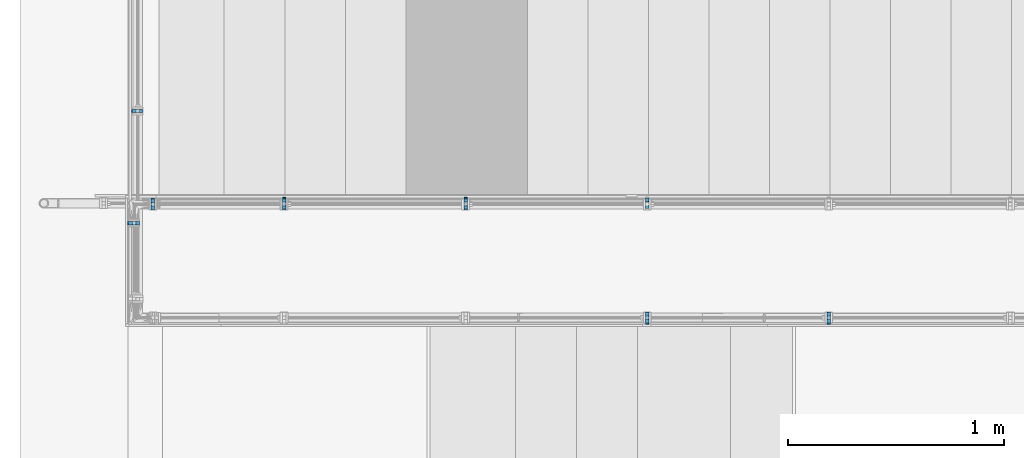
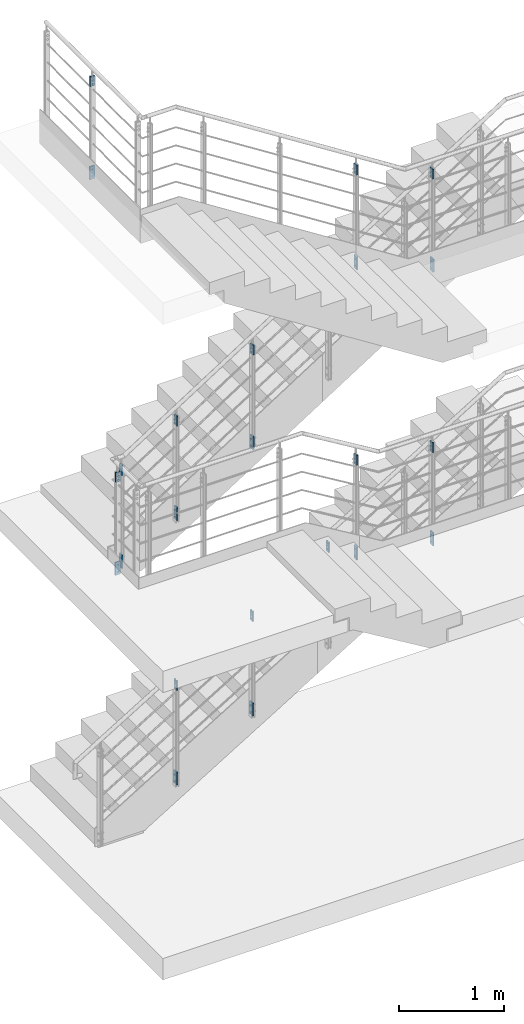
# One storey, part 18 of 98: 23 plates, 58 openings.
"""IFC2X3 building model written with IfcOpenShell, lengths in millimetres."""

from ifc_helpers import new_model, entity, si_unit, converted_unit, frame, frame_2d, origin, origin_with_axes, place, context, project, spatial, polyline, circle, outline, extrude, material, layer, layer_set, element, save


model = new_model("IFC2X3")

# Units and contexts
model_context = context("Model", 3, precision=1e-09, world=origin_with_axes())
ifc_project = project(units=[si_unit("LENGTHUNIT", "METRE", prefix="MILLI"), si_unit("AREAUNIT", "SQUARE_METRE"), si_unit("VOLUMEUNIT", "CUBIC_METRE"), converted_unit("PLANEANGLEUNIT", "DEGREE", entity("IfcPlaneAngleMeasure", 0.01745329), si_unit("PLANEANGLEUNIT", "RADIAN"), dimensions=[0, 0, 0, 0, 0, 0, 0])], contexts=[model_context])

# Site, building, storey
site_placement = place(None, origin_with_axes())
site = spatial("IfcSite", under=ifc_project, at=site_placement, Name="Maybachstra?e 2, 71563 Affalterbach", CompositionType="ELEMENT")
building_placement = place(site_placement, origin_with_axes())
building = spatial("IfcBuilding", under=site, at=building_placement, Name="Struktur 1", CompositionType="ELEMENT")
storey_placement = place(building_placement, origin_with_axes())
storey = spatial("IfcBuildingStorey", under=building, at=storey_placement, Name="Default Storey", CompositionType="ELEMENT", Elevation=0.0)

# Plate, openings
ifc_material_1 = material(Name="S235JR")
ifc_layer_1 = layer(ifc_material_1, 16.0)
ifc_layer_set_1 = layer_set([ifc_layer_1], Name="S235JR")
plate_1_placement = place(None, frame((10527.029157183, -572.5, 5947.5), z_axis=(1.0, 0.0, 0.0), x_axis=(0.0, 1.0, 0.0)))
plate_1 = element("IfcPlate", 1, at=plate_1_placement, inside=storey, material=ifc_layer_set_1, Name="-", ObjectType="-", context=model_context, shape_type="SweptSolid", body=[
    extrude(outline(polyline([(-27.5, -75.0), (27.5, -75.0), (27.5, 75.0), (-27.5, 75.0), (-27.5, -75.0)])), origin_with_axes(), (0.0, 0.0, 1.0), 16.0),
])
opening_1_placement = place(plate_1_placement, frame((2.5, 0.0, -0.5), z_axis=(0.0, 0.0, 1.0), x_axis=(1.0, 0.0, 0.0)))
element("IfcOpeningElement", 2, at=opening_1_placement, cuts=plate_1, ObjectType="Opening", context=model_context, shape_type="SweptSolid", body=[
    extrude(circle(Radius=7.001, at=frame_2d((0.0, 40.0), x_axis=(1.0, 0.0))), origin(), (0.0, 0.0, 1.0), 17.0),
])
opening_2_placement = place(plate_1_placement, frame((2.5, 0.0, -0.5), z_axis=(0.0, 0.0, 1.0), x_axis=(1.0, 0.0, 0.0)))
element("IfcOpeningElement", 3, at=opening_2_placement, cuts=plate_1, ObjectType="Opening", context=model_context, shape_type="SweptSolid", body=[
    extrude(circle(Radius=7.001, at=frame_2d((0.0, -40.0), x_axis=(1.0, 0.0))), origin(), (0.0, 0.0, 1.0), 17.0),
])

plate_2_placement = place(None, frame((10527.029157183, -571.5, 2755.0), z_axis=(1.0, 0.0, 0.0), x_axis=(0.0, 1.0, 0.0)))
plate_2 = element("IfcPlate", 4, at=plate_2_placement, inside=storey, material=ifc_layer_set_1, Name="-", ObjectType="-", context=model_context, shape_type="SweptSolid", body=[
    extrude(outline(polyline([(-27.5, -75.0), (27.5, -75.0), (27.5, 75.0), (-27.5, 75.0), (-27.5, -75.0)])), origin_with_axes(), (0.0, 0.0, 1.0), 16.0),
])
opening_3_placement = place(plate_2_placement, frame((2.5, 0.0, -0.5), z_axis=(0.0, 0.0, 1.0), x_axis=(1.0, 0.0, 0.0)))
element("IfcOpeningElement", 5, at=opening_3_placement, cuts=plate_2, ObjectType="Opening", context=model_context, shape_type="SweptSolid", body=[
    extrude(circle(Radius=7.001, at=frame_2d((0.0, 40.0), x_axis=(1.0, 0.0))), origin(), (0.0, 0.0, 1.0), 17.0),
])
opening_4_placement = place(plate_2_placement, frame((2.5, 0.0, -0.5), z_axis=(0.0, 0.0, 1.0), x_axis=(1.0, 0.0, 0.0)))
element("IfcOpeningElement", 6, at=opening_4_placement, cuts=plate_2, ObjectType="Opening", context=model_context, shape_type="SweptSolid", body=[
    extrude(circle(Radius=7.001, at=frame_2d((0.0, -40.0), x_axis=(1.0, 0.0))), origin(), (0.0, 0.0, 1.0), 17.0),
])

ifc_material_2 = material(Name="1.4301")
ifc_layer_2 = layer(ifc_material_2, 16.0)
ifc_layer_set_2 = layer_set([ifc_layer_2], Name="1.4301")
plate_3_placement = place(None, frame((10527.029157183, -569.0, 3820.1), z_axis=(1.0, 0.0, 0.0), x_axis=(0.0, 1.0, 0.0)))
plate_3 = element("IfcPlate", 7, at=plate_3_placement, inside=storey, material=ifc_layer_set_2, Name="-", ObjectType="-", context=model_context, shape_type="SweptSolid", body=[
    extrude(outline(polyline([(-25.0, -57.5), (25.0, -57.5), (25.0, 57.5), (-25.0, 57.5), (-25.0, -57.5)])), origin_with_axes(), (0.0, 0.0, 1.0), 16.0),
])
opening_5_placement = place(plate_3_placement, frame((0.0, 0.0, -0.1), z_axis=(0.0, 0.0, 1.0), x_axis=(1.0, 0.0, 0.0)))
element("IfcOpeningElement", 8, at=opening_5_placement, cuts=plate_3, ObjectType="Opening", context=model_context, shape_type="SweptSolid", body=[
    extrude(outline(polyline([(-8.251, 32.499), (8.251, 32.499), (8.251, 73.92554386), (-8.251, 73.92554386), (-8.251, 32.499)])), origin(), (0.0, 0.0, 1.0), 16.2),
])
opening_6_placement = place(plate_3_placement, frame((0.0, -9.5, -0.5), z_axis=(0.0, 0.0, 1.0), x_axis=(1.0, 0.0, 0.0)))
element("IfcOpeningElement", 9, at=opening_6_placement, cuts=plate_3, ObjectType="Opening", context=model_context, shape_type="SweptSolid", body=[
    extrude(circle(Radius=6.501, at=frame_2d((0.0, 22.0), x_axis=(1.0, 0.0))), origin(), (0.0, 0.0, 1.0), 17.0),
])
opening_7_placement = place(plate_3_placement, frame((0.0, -9.5, -0.5), z_axis=(0.0, 0.0, 1.0), x_axis=(1.0, 0.0, 0.0)))
element("IfcOpeningElement", 10, at=opening_7_placement, cuts=plate_3, ObjectType="Opening", context=model_context, shape_type="SweptSolid", body=[
    extrude(circle(Radius=6.501, at=frame_2d((0.0, -22.0), x_axis=(1.0, 0.0))), origin(), (0.0, 0.0, 1.0), 17.0),
])

plate_4_placement = place(None, frame((10527.029157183, -570.0, 7012.6), z_axis=(1.0, 0.0, 0.0), x_axis=(0.0, 1.0, 0.0)))
plate_4 = element("IfcPlate", 11, at=plate_4_placement, inside=storey, material=ifc_layer_set_2, Name="-", ObjectType="-", context=model_context, shape_type="SweptSolid", body=[
    extrude(outline(polyline([(-25.0, -57.5), (25.0, -57.5), (25.0, 57.5), (-25.0, 57.5), (-25.0, -57.5)])), origin_with_axes(), (0.0, 0.0, 1.0), 16.0),
])
opening_8_placement = place(plate_4_placement, frame((0.0, 0.0, -0.1), z_axis=(0.0, 0.0, 1.0), x_axis=(1.0, 0.0, 0.0)))
element("IfcOpeningElement", 12, at=opening_8_placement, cuts=plate_4, ObjectType="Opening", context=model_context, shape_type="SweptSolid", body=[
    extrude(outline(polyline([(-8.251, 32.499), (8.251, 32.499), (8.251, 73.92554386), (-8.251, 73.92554386), (-8.251, 32.499)])), origin(), (0.0, 0.0, 1.0), 16.2),
])
opening_9_placement = place(plate_4_placement, frame((0.0, -9.5, -0.5), z_axis=(0.0, 0.0, 1.0), x_axis=(1.0, 0.0, 0.0)))
element("IfcOpeningElement", 13, at=opening_9_placement, cuts=plate_4, ObjectType="Opening", context=model_context, shape_type="SweptSolid", body=[
    extrude(circle(Radius=6.501, at=frame_2d((0.0, 22.0), x_axis=(1.0, 0.0))), origin(), (0.0, 0.0, 1.0), 17.0),
])
opening_10_placement = place(plate_4_placement, frame((0.0, -9.5, -0.5), z_axis=(0.0, 0.0, 1.0), x_axis=(1.0, 0.0, 0.0)))
element("IfcOpeningElement", 14, at=opening_10_placement, cuts=plate_4, ObjectType="Opening", context=model_context, shape_type="SweptSolid", body=[
    extrude(circle(Radius=6.501, at=frame_2d((0.0, -22.0), x_axis=(1.0, 0.0))), origin(), (0.0, 0.0, 1.0), 17.0),
])

plate_5_placement = place(None, frame((9687.029157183, -569.0, 3966.838077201), z_axis=(1.0, 0.0, 0.0), x_axis=(0.0, 1.0, 0.0)))
plate_5 = element("IfcPlate", 15, at=plate_5_placement, inside=storey, material=ifc_layer_set_2, Name="-", ObjectType="-", context=model_context, shape_type="SweptSolid", body=[
    extrude(outline(polyline([(-25.0, -57.5), (25.0, -57.5), (25.0, 57.5), (-25.0, 57.5), (-25.0, -57.5)])), origin_with_axes(), (0.0, 0.0, 1.0), 16.0),
])
opening_11_placement = place(plate_5_placement, frame((0.0, 0.0, -0.1), z_axis=(0.0, 0.0, 1.0), x_axis=(1.0, 0.0, 0.0)))
element("IfcOpeningElement", 16, at=opening_11_placement, cuts=plate_5, ObjectType="Opening", context=model_context, shape_type="SweptSolid", body=[
    extrude(outline(polyline([(-8.251, 32.499), (8.251, 32.499), (8.251, 73.92554386), (-8.251, 73.92554386), (-8.251, 32.499)])), origin(), (0.0, 0.0, 1.0), 16.2),
])
opening_12_placement = place(plate_5_placement, frame((0.0, -9.5, -0.5), z_axis=(0.0, 0.0, 1.0), x_axis=(1.0, 0.0, 0.0)))
element("IfcOpeningElement", 17, at=opening_12_placement, cuts=plate_5, ObjectType="Opening", context=model_context, shape_type="SweptSolid", body=[
    extrude(circle(Radius=6.501, at=frame_2d((0.0, 22.0), x_axis=(1.0, 0.0))), origin(), (0.0, 0.0, 1.0), 17.0),
])
opening_13_placement = place(plate_5_placement, frame((0.0, -9.5, -0.5), z_axis=(0.0, 0.0, 1.0), x_axis=(1.0, 0.0, 0.0)))
element("IfcOpeningElement", 18, at=opening_13_placement, cuts=plate_5, ObjectType="Opening", context=model_context, shape_type="SweptSolid", body=[
    extrude(circle(Radius=6.501, at=frame_2d((0.0, -22.0), x_axis=(1.0, 0.0))), origin(), (0.0, 0.0, 1.0), 17.0),
])

plate_6_placement = place(None, frame((9687.029157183, -571.5, 2881.738077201), z_axis=(1.0, 0.0, 0.0), x_axis=(0.0, 1.0, 0.0)))
plate_6 = element("IfcPlate", 19, at=plate_6_placement, inside=storey, material=ifc_layer_set_1, Name="-", ObjectType="-", context=model_context, shape_type="SweptSolid", body=[
    extrude(outline(polyline([(-27.5, -75.0), (27.5, -75.0), (27.5, 75.0), (-27.5, 75.0), (-27.5, -75.0)])), origin_with_axes(), (0.0, 0.0, 1.0), 16.0),
])
opening_14_placement = place(plate_6_placement, frame((2.5, 0.0, -0.5), z_axis=(0.0, 0.0, 1.0), x_axis=(1.0, 0.0, 0.0)))
element("IfcOpeningElement", 20, at=opening_14_placement, cuts=plate_6, ObjectType="Opening", context=model_context, shape_type="SweptSolid", body=[
    extrude(circle(Radius=7.001, at=frame_2d((0.0, 40.0), x_axis=(1.0, 0.0))), origin(), (0.0, 0.0, 1.0), 17.0),
])
opening_15_placement = place(plate_6_placement, frame((2.5, 0.0, -0.5), z_axis=(0.0, 0.0, 1.0), x_axis=(1.0, 0.0, 0.0)))
element("IfcOpeningElement", 21, at=opening_15_placement, cuts=plate_6, ObjectType="Opening", context=model_context, shape_type="SweptSolid", body=[
    extrude(circle(Radius=7.001, at=frame_2d((0.0, -40.0), x_axis=(1.0, 0.0))), origin(), (0.0, 0.0, 1.0), 17.0),
])

plate_7_placement = place(None, frame((8023.029157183, -40.0, 1606.682336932), z_axis=(1.0, 0.0, 0.0), x_axis=(0.0, 1.0, 0.0)))
plate_7 = element("IfcPlate", 22, at=plate_7_placement, inside=storey, material=ifc_layer_set_2, Name="-", ObjectType="-", context=model_context, shape_type="SweptSolid", body=[
    extrude(outline(polyline([(-25.0, -57.5), (25.0, -57.5), (25.0, 57.5), (-25.0, 57.5), (-25.0, -57.5)])), origin_with_axes(), (0.0, 0.0, -1.0), 16.0),
])
opening_16_placement = place(plate_7_placement, frame((-8.251, 32.499, 0.1), z_axis=(0.0, 0.0, 1.0), x_axis=(1.0, 0.0, 0.0)))
element("IfcOpeningElement", 23, at=opening_16_placement, cuts=plate_7, ObjectType="Opening", context=model_context, shape_type="SweptSolid", body=[
    extrude(outline(polyline([(0.0, 0.0), (16.502, 0.0), (16.502, 41.42654386), (0.0, 41.42654386), (0.0, 0.0)])), origin(), (0.0, 0.0, -1.0), 16.2),
])
opening_17_placement = place(plate_7_placement, frame((-6.501, 12.5, 0.5), z_axis=(0.0, 0.0, 1.0), x_axis=(1.0, 0.0, 0.0)))
element("IfcOpeningElement", 24, at=opening_17_placement, cuts=plate_7, ObjectType="Opening", context=model_context, shape_type="SweptSolid", body=[
    extrude(circle(Radius=6.501, at=frame_2d((6.501, 0.0), x_axis=(1.0, 0.0))), origin(), (0.0, 0.0, -1.0), 17.0),
])
opening_18_placement = place(plate_7_placement, frame((-6.501, -31.5, 0.5), z_axis=(0.0, 0.0, 1.0), x_axis=(1.0, 0.0, 0.0)))
element("IfcOpeningElement", 25, at=opening_18_placement, cuts=plate_7, ObjectType="Opening", context=model_context, shape_type="SweptSolid", body=[
    extrude(circle(Radius=6.501, at=frame_2d((6.501, 0.0), x_axis=(1.0, 0.0))), origin(), (0.0, 0.0, -1.0), 17.0),
])

plate_8_placement = place(None, frame((8023.029157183, -37.5, 521.582336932), z_axis=(-1.0, 0.0, 0.0), x_axis=(0.0, -1.0, 0.0)))
plate_8 = element("IfcPlate", 26, at=plate_8_placement, inside=storey, material=ifc_layer_set_1, Name="-", ObjectType="-", context=model_context, shape_type="SweptSolid", body=[
    extrude(outline(polyline([(-27.5, -75.0), (27.5, -75.0), (27.5, 75.0), (-27.5, 75.0), (-27.5, -75.0)])), origin_with_axes(), (0.0, 0.0, 1.0), 16.0),
])
opening_19_placement = place(plate_8_placement, frame((9.501, 40.0, -0.5), z_axis=(0.0, 0.0, -1.0), x_axis=(-1.0, 0.0, 0.0)))
element("IfcOpeningElement", 27, at=opening_19_placement, cuts=plate_8, ObjectType="Opening", context=model_context, shape_type="SweptSolid", body=[
    extrude(circle(Radius=7.001, at=frame_2d((7.001, 0.0), x_axis=(1.0, 0.0))), origin(), (0.0, 0.0, -1.0), 17.0),
])
opening_20_placement = place(plate_8_placement, frame((9.501, -40.0, -0.5), z_axis=(0.0, 0.0, -1.0), x_axis=(-1.0, 0.0, 0.0)))
element("IfcOpeningElement", 28, at=opening_20_placement, cuts=plate_8, ObjectType="Opening", context=model_context, shape_type="SweptSolid", body=[
    extrude(circle(Radius=7.001, at=frame_2d((7.001, 0.0), x_axis=(1.0, 0.0))), origin(), (0.0, 0.0, -1.0), 17.0),
])

plate_9_placement = place(None, frame((9687.029157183, -570.0, 7353.934521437), z_axis=(1.0, 0.0, 0.0), x_axis=(0.0, 1.0, 0.0)))
plate_9 = element("IfcPlate", 29, at=plate_9_placement, inside=storey, material=ifc_layer_set_2, Name="-", ObjectType="-", context=model_context, shape_type="SweptSolid", body=[
    extrude(outline(polyline([(-25.0, -57.5), (25.0, -57.5), (25.0, 57.5), (-25.0, 57.5), (-25.0, -57.5)])), origin_with_axes(), (0.0, 0.0, 1.0), 16.0),
])
opening_21_placement = place(plate_9_placement, frame((0.0, 0.0, -0.1), z_axis=(0.0, 0.0, 1.0), x_axis=(1.0, 0.0, 0.0)))
element("IfcOpeningElement", 30, at=opening_21_placement, cuts=plate_9, ObjectType="Opening", context=model_context, shape_type="SweptSolid", body=[
    extrude(outline(polyline([(-8.251, 32.499), (8.251, 32.499), (8.251, 73.92554386), (-8.251, 73.92554386), (-8.251, 32.499)])), origin(), (0.0, 0.0, 1.0), 16.2),
])
opening_22_placement = place(plate_9_placement, frame((0.0, -9.5, -0.5), z_axis=(0.0, 0.0, 1.0), x_axis=(1.0, 0.0, 0.0)))
element("IfcOpeningElement", 31, at=opening_22_placement, cuts=plate_9, ObjectType="Opening", context=model_context, shape_type="SweptSolid", body=[
    extrude(circle(Radius=6.501, at=frame_2d((0.0, 22.0), x_axis=(1.0, 0.0))), origin(), (0.0, 0.0, 1.0), 17.0),
])
opening_23_placement = place(plate_9_placement, frame((0.0, -9.5, -0.5), z_axis=(0.0, 0.0, 1.0), x_axis=(1.0, 0.0, 0.0)))
element("IfcOpeningElement", 32, at=opening_23_placement, cuts=plate_9, ObjectType="Opening", context=model_context, shape_type="SweptSolid", body=[
    extrude(circle(Radius=6.501, at=frame_2d((0.0, -22.0), x_axis=(1.0, 0.0))), origin(), (0.0, 0.0, 1.0), 17.0),
])

plate_10_placement = place(None, frame((9687.029157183, -572.5, 6268.834521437), z_axis=(1.0, 0.0, 0.0), x_axis=(0.0, 1.0, 0.0)))
plate_10 = element("IfcPlate", 33, at=plate_10_placement, inside=storey, material=ifc_layer_set_1, Name="-", ObjectType="-", context=model_context, shape_type="SweptSolid", body=[
    extrude(outline(polyline([(-27.5, -75.0), (27.5, -75.0), (27.5, 75.0), (-27.5, 75.0), (-27.5, -75.0)])), origin_with_axes(), (0.0, 0.0, 1.0), 16.0),
])
opening_24_placement = place(plate_10_placement, frame((2.5, 0.0, -0.5), z_axis=(0.0, 0.0, 1.0), x_axis=(1.0, 0.0, 0.0)))
element("IfcOpeningElement", 34, at=opening_24_placement, cuts=plate_10, ObjectType="Opening", context=model_context, shape_type="SweptSolid", body=[
    extrude(circle(Radius=7.001, at=frame_2d((0.0, 40.0), x_axis=(1.0, 0.0))), origin(), (0.0, 0.0, 1.0), 17.0),
])
opening_25_placement = place(plate_10_placement, frame((2.5, 0.0, -0.5), z_axis=(0.0, 0.0, 1.0), x_axis=(1.0, 0.0, 0.0)))
element("IfcOpeningElement", 35, at=opening_25_placement, cuts=plate_10, ObjectType="Opening", context=model_context, shape_type="SweptSolid", body=[
    extrude(circle(Radius=7.001, at=frame_2d((0.0, -40.0), x_axis=(1.0, 0.0))), origin(), (0.0, 0.0, 1.0), 17.0),
])

plate_11_placement = place(None, frame((8863.029157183, -40.0, 2117.807336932), z_axis=(1.0, 0.0, 0.0), x_axis=(0.0, 1.0, 0.0)))
plate_11 = element("IfcPlate", 36, at=plate_11_placement, inside=storey, material=ifc_layer_set_2, Name="-", ObjectType="-", context=model_context, shape_type="SweptSolid", body=[
    extrude(outline(polyline([(-25.0, -57.5), (25.0, -57.5), (25.0, 57.5), (-25.0, 57.5), (-25.0, -57.5)])), origin_with_axes(), (0.0, 0.0, -1.0), 16.0),
])
opening_26_placement = place(plate_11_placement, frame((-8.251, 32.499, 0.1), z_axis=(0.0, 0.0, 1.0), x_axis=(1.0, 0.0, 0.0)))
element("IfcOpeningElement", 37, at=opening_26_placement, cuts=plate_11, ObjectType="Opening", context=model_context, shape_type="SweptSolid", body=[
    extrude(outline(polyline([(0.0, 0.0), (16.502, 0.0), (16.502, 41.42654386), (0.0, 41.42654386), (0.0, 0.0)])), origin(), (0.0, 0.0, -1.0), 16.2),
])
opening_27_placement = place(plate_11_placement, frame((-6.501, 12.5, 0.5), z_axis=(0.0, 0.0, 1.0), x_axis=(1.0, 0.0, 0.0)))
element("IfcOpeningElement", 38, at=opening_27_placement, cuts=plate_11, ObjectType="Opening", context=model_context, shape_type="SweptSolid", body=[
    extrude(circle(Radius=6.501, at=frame_2d((6.501, 0.0), x_axis=(1.0, 0.0))), origin(), (0.0, 0.0, -1.0), 17.0),
])
opening_28_placement = place(plate_11_placement, frame((-6.501, -31.5, 0.5), z_axis=(0.0, 0.0, 1.0), x_axis=(1.0, 0.0, 0.0)))
element("IfcOpeningElement", 39, at=opening_28_placement, cuts=plate_11, ObjectType="Opening", context=model_context, shape_type="SweptSolid", body=[
    extrude(circle(Radius=6.501, at=frame_2d((6.501, 0.0), x_axis=(1.0, 0.0))), origin(), (0.0, 0.0, -1.0), 17.0),
])

plate_12_placement = place(None, frame((8863.029157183, -37.5, 1032.707336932), z_axis=(-1.0, 0.0, 0.0), x_axis=(0.0, -1.0, 0.0)))
plate_12 = element("IfcPlate", 40, at=plate_12_placement, inside=storey, material=ifc_layer_set_1, Name="-", ObjectType="-", context=model_context, shape_type="SweptSolid", body=[
    extrude(outline(polyline([(-27.5, -75.0), (27.5, -75.0), (27.5, 75.0), (-27.5, 75.0), (-27.5, -75.0)])), origin_with_axes(), (0.0, 0.0, 1.0), 16.0),
])
opening_29_placement = place(plate_12_placement, frame((9.501, 40.0, -0.5), z_axis=(0.0, 0.0, -1.0), x_axis=(-1.0, 0.0, 0.0)))
element("IfcOpeningElement", 41, at=opening_29_placement, cuts=plate_12, ObjectType="Opening", context=model_context, shape_type="SweptSolid", body=[
    extrude(circle(Radius=7.001, at=frame_2d((7.001, 0.0), x_axis=(1.0, 0.0))), origin(), (0.0, 0.0, -1.0), 17.0),
])
opening_30_placement = place(plate_12_placement, frame((9.501, -40.0, -0.5), z_axis=(0.0, 0.0, -1.0), x_axis=(-1.0, 0.0, 0.0)))
element("IfcOpeningElement", 42, at=opening_30_placement, cuts=plate_12, ObjectType="Opening", context=model_context, shape_type="SweptSolid", body=[
    extrude(circle(Radius=7.001, at=frame_2d((7.001, 0.0), x_axis=(1.0, 0.0))), origin(), (0.0, 0.0, -1.0), 17.0),
])

plate_13_placement = place(None, frame((9703.029157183, -40.0, 2628.932336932), z_axis=(1.0, 0.0, 0.0), x_axis=(0.0, 1.0, 0.0)))
plate_13 = element("IfcPlate", 43, at=plate_13_placement, inside=storey, material=ifc_layer_set_2, Name="-", ObjectType="-", context=model_context, shape_type="SweptSolid", body=[
    extrude(outline(polyline([(-25.0, -57.5), (25.0, -57.5), (25.0, 57.5), (-25.0, 57.5), (-25.0, -57.5)])), origin_with_axes(), (0.0, 0.0, -1.0), 16.0),
])
opening_31_placement = place(plate_13_placement, frame((-8.251, 32.499, 0.1), z_axis=(0.0, 0.0, 1.0), x_axis=(1.0, 0.0, 0.0)))
element("IfcOpeningElement", 44, at=opening_31_placement, cuts=plate_13, ObjectType="Opening", context=model_context, shape_type="SweptSolid", body=[
    extrude(outline(polyline([(0.0, 0.0), (16.502, 0.0), (16.502, 41.42654386), (0.0, 41.42654386), (0.0, 0.0)])), origin(), (0.0, 0.0, -1.0), 16.2),
])
opening_32_placement = place(plate_13_placement, frame((-6.501, 12.5, 0.5), z_axis=(0.0, 0.0, 1.0), x_axis=(1.0, 0.0, 0.0)))
element("IfcOpeningElement", 45, at=opening_32_placement, cuts=plate_13, ObjectType="Opening", context=model_context, shape_type="SweptSolid", body=[
    extrude(circle(Radius=6.501, at=frame_2d((6.501, 0.0), x_axis=(1.0, 0.0))), origin(), (0.0, 0.0, -1.0), 17.0),
])
opening_33_placement = place(plate_13_placement, frame((-6.501, -31.5, 0.5), z_axis=(0.0, 0.0, 1.0), x_axis=(1.0, 0.0, 0.0)))
element("IfcOpeningElement", 46, at=opening_33_placement, cuts=plate_13, ObjectType="Opening", context=model_context, shape_type="SweptSolid", body=[
    extrude(circle(Radius=6.501, at=frame_2d((6.501, 0.0), x_axis=(1.0, 0.0))), origin(), (0.0, 0.0, -1.0), 17.0),
])

plate_14_placement = place(None, frame((8863.029157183, -45.0, 5229.423704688), z_axis=(1.0, 0.0, 0.0), x_axis=(0.0, 1.0, 0.0)))
plate_14 = element("IfcPlate", 47, at=plate_14_placement, inside=storey, material=ifc_layer_set_2, Name="-", ObjectType="-", context=model_context, shape_type="SweptSolid", body=[
    extrude(outline(polyline([(-25.0, -57.5), (25.0, -57.5), (25.0, 57.5), (-25.0, 57.5), (-25.0, -57.5)])), origin_with_axes(), (0.0, 0.0, -1.0), 16.0),
])
opening_34_placement = place(plate_14_placement, frame((-8.251, 32.499, 0.1), z_axis=(0.0, 0.0, 1.0), x_axis=(1.0, 0.0, 0.0)))
element("IfcOpeningElement", 48, at=opening_34_placement, cuts=plate_14, ObjectType="Opening", context=model_context, shape_type="SweptSolid", body=[
    extrude(outline(polyline([(0.0, 0.0), (16.502, 0.0), (16.502, 41.42654386), (0.0, 41.42654386), (0.0, 0.0)])), origin(), (0.0, 0.0, -1.0), 16.2),
])
opening_35_placement = place(plate_14_placement, frame((-6.501, 12.5, 0.5), z_axis=(0.0, 0.0, 1.0), x_axis=(1.0, 0.0, 0.0)))
element("IfcOpeningElement", 49, at=opening_35_placement, cuts=plate_14, ObjectType="Opening", context=model_context, shape_type="SweptSolid", body=[
    extrude(circle(Radius=6.501, at=frame_2d((6.501, 0.0), x_axis=(1.0, 0.0))), origin(), (0.0, 0.0, -1.0), 17.0),
])
opening_36_placement = place(plate_14_placement, frame((-6.501, -31.5, 0.5), z_axis=(0.0, 0.0, 1.0), x_axis=(1.0, 0.0, 0.0)))
element("IfcOpeningElement", 50, at=opening_36_placement, cuts=plate_14, ObjectType="Opening", context=model_context, shape_type="SweptSolid", body=[
    extrude(circle(Radius=6.501, at=frame_2d((6.501, 0.0), x_axis=(1.0, 0.0))), origin(), (0.0, 0.0, -1.0), 17.0),
])

plate_15_placement = place(None, frame((8863.029157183, -42.5, 4144.323704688), z_axis=(-1.0, 0.0, 0.0), x_axis=(0.0, -1.0, 0.0)))
plate_15 = element("IfcPlate", 51, at=plate_15_placement, inside=storey, material=ifc_layer_set_1, Name="-", ObjectType="-", context=model_context, shape_type="SweptSolid", body=[
    extrude(outline(polyline([(-27.5, -75.0), (27.5, -75.0), (27.5, 75.0), (-27.5, 75.0), (-27.5, -75.0)])), origin_with_axes(), (0.0, 0.0, 1.0), 16.0),
])
opening_37_placement = place(plate_15_placement, frame((9.501, 40.0, -0.5), z_axis=(0.0, 0.0, -1.0), x_axis=(-1.0, 0.0, 0.0)))
element("IfcOpeningElement", 52, at=opening_37_placement, cuts=plate_15, ObjectType="Opening", context=model_context, shape_type="SweptSolid", body=[
    extrude(circle(Radius=7.001, at=frame_2d((7.001, 0.0), x_axis=(1.0, 0.0))), origin(), (0.0, 0.0, -1.0), 17.0),
])
opening_38_placement = place(plate_15_placement, frame((9.501, -40.0, -0.5), z_axis=(0.0, 0.0, -1.0), x_axis=(-1.0, 0.0, 0.0)))
element("IfcOpeningElement", 53, at=opening_38_placement, cuts=plate_15, ObjectType="Opening", context=model_context, shape_type="SweptSolid", body=[
    extrude(circle(Radius=7.001, at=frame_2d((7.001, 0.0), x_axis=(1.0, 0.0))), origin(), (0.0, 0.0, -1.0), 17.0),
])

plate_16_placement = place(None, frame((8023.029157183, -45.0, 4694.605870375), z_axis=(1.0, 0.0, 0.0), x_axis=(0.0, 1.0, 0.0)))
plate_16 = element("IfcPlate", 54, at=plate_16_placement, inside=storey, material=ifc_layer_set_2, Name="-", ObjectType="-", context=model_context, shape_type="SweptSolid", body=[
    extrude(outline(polyline([(-25.0, -57.5), (25.0, -57.5), (25.0, 57.5), (-25.0, 57.5), (-25.0, -57.5)])), origin_with_axes(), (0.0, 0.0, -1.0), 16.0),
])
opening_39_placement = place(plate_16_placement, frame((-8.251, 32.499, 0.1), z_axis=(0.0, 0.0, 1.0), x_axis=(1.0, 0.0, 0.0)))
element("IfcOpeningElement", 55, at=opening_39_placement, cuts=plate_16, ObjectType="Opening", context=model_context, shape_type="SweptSolid", body=[
    extrude(outline(polyline([(0.0, 0.0), (16.502, 0.0), (16.502, 41.42654386), (0.0, 41.42654386), (0.0, 0.0)])), origin(), (0.0, 0.0, -1.0), 16.2),
])
opening_40_placement = place(plate_16_placement, frame((-6.501, 12.5, 0.5), z_axis=(0.0, 0.0, 1.0), x_axis=(1.0, 0.0, 0.0)))
element("IfcOpeningElement", 56, at=opening_40_placement, cuts=plate_16, ObjectType="Opening", context=model_context, shape_type="SweptSolid", body=[
    extrude(circle(Radius=6.501, at=frame_2d((6.501, 0.0), x_axis=(1.0, 0.0))), origin(), (0.0, 0.0, -1.0), 17.0),
])
opening_41_placement = place(plate_16_placement, frame((-6.501, -31.5, 0.5), z_axis=(0.0, 0.0, 1.0), x_axis=(1.0, 0.0, 0.0)))
element("IfcOpeningElement", 57, at=opening_41_placement, cuts=plate_16, ObjectType="Opening", context=model_context, shape_type="SweptSolid", body=[
    extrude(circle(Radius=6.501, at=frame_2d((6.501, 0.0), x_axis=(1.0, 0.0))), origin(), (0.0, 0.0, -1.0), 17.0),
])

plate_17_placement = place(None, frame((8023.029157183, -42.5, 3609.505870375), z_axis=(-1.0, 0.0, 0.0), x_axis=(0.0, -1.0, 0.0)))
plate_17 = element("IfcPlate", 58, at=plate_17_placement, inside=storey, material=ifc_layer_set_1, Name="-", ObjectType="-", context=model_context, shape_type="SweptSolid", body=[
    extrude(outline(polyline([(-27.5, -75.0), (27.5, -75.0), (27.5, 75.0), (-27.5, 75.0), (-27.5, -75.0)])), origin_with_axes(), (0.0, 0.0, 1.0), 16.0),
])
opening_42_placement = place(plate_17_placement, frame((9.501, 40.0, -0.5), z_axis=(0.0, 0.0, -1.0), x_axis=(-1.0, 0.0, 0.0)))
element("IfcOpeningElement", 59, at=opening_42_placement, cuts=plate_17, ObjectType="Opening", context=model_context, shape_type="SweptSolid", body=[
    extrude(circle(Radius=7.001, at=frame_2d((7.001, 0.0), x_axis=(1.0, 0.0))), origin(), (0.0, 0.0, -1.0), 17.0),
])
opening_43_placement = place(plate_17_placement, frame((9.501, -40.0, -0.5), z_axis=(0.0, 0.0, -1.0), x_axis=(-1.0, 0.0, 0.0)))
element("IfcOpeningElement", 60, at=opening_43_placement, cuts=plate_17, ObjectType="Opening", context=model_context, shape_type="SweptSolid", body=[
    extrude(circle(Radius=7.001, at=frame_2d((7.001, 0.0), x_axis=(1.0, 0.0))), origin(), (0.0, 0.0, -1.0), 17.0),
])

plate_18_placement = place(None, frame((7416.029157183, -45.0, 4330.1), z_axis=(1.0, 0.0, 0.0), x_axis=(0.0, 1.0, 0.0)))
plate_18 = element("IfcPlate", 61, at=plate_18_placement, inside=storey, material=ifc_layer_set_2, Name="-", ObjectType="-", context=model_context, shape_type="SweptSolid", body=[
    extrude(outline(polyline([(-25.0, -57.5), (25.0, -57.5), (25.0, 57.5), (-25.0, 57.5), (-25.0, -57.5)])), origin_with_axes(), (0.0, 0.0, -1.0), 16.0),
])
opening_44_placement = place(plate_18_placement, frame((-8.251, 32.499, 0.1), z_axis=(0.0, 0.0, 1.0), x_axis=(1.0, 0.0, 0.0)))
element("IfcOpeningElement", 62, at=opening_44_placement, cuts=plate_18, ObjectType="Opening", context=model_context, shape_type="SweptSolid", body=[
    extrude(outline(polyline([(0.0, 0.0), (16.502, 0.0), (16.502, 41.42654386), (0.0, 41.42654386), (0.0, 0.0)])), origin(), (0.0, 0.0, -1.0), 16.2),
])
opening_45_placement = place(plate_18_placement, frame((-6.501, 12.5, 0.5), z_axis=(0.0, 0.0, 1.0), x_axis=(1.0, 0.0, 0.0)))
element("IfcOpeningElement", 63, at=opening_45_placement, cuts=plate_18, ObjectType="Opening", context=model_context, shape_type="SweptSolid", body=[
    extrude(circle(Radius=6.501, at=frame_2d((6.501, 0.0), x_axis=(1.0, 0.0))), origin(), (0.0, 0.0, -1.0), 17.0),
])
opening_46_placement = place(plate_18_placement, frame((-6.501, -31.5, 0.5), z_axis=(0.0, 0.0, 1.0), x_axis=(1.0, 0.0, 0.0)))
element("IfcOpeningElement", 64, at=opening_46_placement, cuts=plate_18, ObjectType="Opening", context=model_context, shape_type="SweptSolid", body=[
    extrude(circle(Radius=6.501, at=frame_2d((6.501, 0.0), x_axis=(1.0, 0.0))), origin(), (0.0, 0.0, -1.0), 17.0),
])

plate_19_placement = place(None, frame((7416.029157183, -42.5, 3265.0), z_axis=(-1.0, 0.0, 0.0), x_axis=(0.0, -1.0, 0.0)))
plate_19 = element("IfcPlate", 65, at=plate_19_placement, inside=storey, material=ifc_layer_set_1, Name="-", ObjectType="-", context=model_context, shape_type="SweptSolid", body=[
    extrude(outline(polyline([(-27.5, -75.0), (27.5, -75.0), (27.5, 75.0), (-27.5, 75.0), (-27.5, -75.0)])), origin_with_axes(), (0.0, 0.0, 1.0), 16.0),
])
opening_47_placement = place(plate_19_placement, frame((9.501, 40.0, -0.5), z_axis=(0.0, 0.0, -1.0), x_axis=(-1.0, 0.0, 0.0)))
element("IfcOpeningElement", 66, at=opening_47_placement, cuts=plate_19, ObjectType="Opening", context=model_context, shape_type="SweptSolid", body=[
    extrude(circle(Radius=7.001, at=frame_2d((7.001, 0.0), x_axis=(1.0, 0.0))), origin(), (0.0, 0.0, -1.0), 17.0),
])
opening_48_placement = place(plate_19_placement, frame((9.501, -40.0, -0.5), z_axis=(0.0, 0.0, -1.0), x_axis=(-1.0, 0.0, 0.0)))
element("IfcOpeningElement", 67, at=opening_48_placement, cuts=plate_19, ObjectType="Opening", context=model_context, shape_type="SweptSolid", body=[
    extrude(circle(Radius=7.001, at=frame_2d((7.001, 0.0), x_axis=(1.0, 0.0))), origin(), (0.0, 0.0, -1.0), 17.0),
])

plate_20_placement = place(None, frame((7321.028157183, -124.0, 4330.1), z_axis=(0.0, -1.0, 0.0), x_axis=(1.0, 0.0, 0.0)))
plate_20 = element("IfcPlate", 68, at=plate_20_placement, inside=storey, material=ifc_layer_set_2, Name="-", ObjectType="-", context=model_context, shape_type="SweptSolid", body=[
    extrude(outline(polyline([(-25.0, -57.5), (25.0, -57.5), (25.0, 57.5), (-25.0, 57.5), (-25.0, -57.5)])), origin_with_axes(), (0.0, 0.0, 1.0), 16.0),
])
opening_49_placement = place(plate_20_placement, frame((0.0, 0.0, -0.1), z_axis=(0.0, 0.0, 1.0), x_axis=(1.0, 0.0, 0.0)))
element("IfcOpeningElement", 69, at=opening_49_placement, cuts=plate_20, ObjectType="Opening", context=model_context, shape_type="SweptSolid", body=[
    extrude(outline(polyline([(-8.251, 32.499), (8.251, 32.499), (8.251, 73.92554386), (-8.251, 73.92554386), (-8.251, 32.499)])), origin(), (0.0, 0.0, 1.0), 16.2),
])
opening_50_placement = place(plate_20_placement, frame((0.0, -9.5, -0.5), z_axis=(0.0, 0.0, 1.0), x_axis=(1.0, 0.0, 0.0)))
element("IfcOpeningElement", 70, at=opening_50_placement, cuts=plate_20, ObjectType="Opening", context=model_context, shape_type="SweptSolid", body=[
    extrude(circle(Radius=6.501, at=frame_2d((0.0, 22.0), x_axis=(1.0, 0.0))), origin(), (0.0, 0.0, 1.0), 17.0),
])
opening_51_placement = place(plate_20_placement, frame((0.0, -9.5, -0.5), z_axis=(0.0, 0.0, 1.0), x_axis=(1.0, 0.0, 0.0)))
element("IfcOpeningElement", 71, at=opening_51_placement, cuts=plate_20, ObjectType="Opening", context=model_context, shape_type="SweptSolid", body=[
    extrude(circle(Radius=6.501, at=frame_2d((0.0, -22.0), x_axis=(1.0, 0.0))), origin(), (0.0, 0.0, 1.0), 17.0),
])

plate_21_placement = place(None, frame((7318.528157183, -124.0, 3265.0), z_axis=(0.0, -1.0, 0.0), x_axis=(1.0, 0.0, 0.0)))
plate_21 = element("IfcPlate", 72, at=plate_21_placement, inside=storey, material=ifc_layer_set_1, Name="-", ObjectType="-", context=model_context, shape_type="SweptSolid", body=[
    extrude(outline(polyline([(-27.5, -75.0), (27.5, -75.0), (27.5, 75.0), (-27.5, 75.0), (-27.5, -75.0)])), origin_with_axes(), (0.0, 0.0, 1.0), 16.0),
])
opening_52_placement = place(plate_21_placement, frame((2.5, 0.0, -0.5), z_axis=(0.0, 0.0, 1.0), x_axis=(1.0, 0.0, 0.0)))
element("IfcOpeningElement", 73, at=opening_52_placement, cuts=plate_21, ObjectType="Opening", context=model_context, shape_type="SweptSolid", body=[
    extrude(circle(Radius=7.001, at=frame_2d((0.0, 40.0), x_axis=(1.0, 0.0))), origin(), (0.0, 0.0, 1.0), 17.0),
])
opening_53_placement = place(plate_21_placement, frame((2.5, 0.0, -0.5), z_axis=(0.0, 0.0, 1.0), x_axis=(1.0, 0.0, 0.0)))
element("IfcOpeningElement", 74, at=opening_53_placement, cuts=plate_21, ObjectType="Opening", context=model_context, shape_type="SweptSolid", body=[
    extrude(circle(Radius=7.001, at=frame_2d((0.0, -40.0), x_axis=(1.0, 0.0))), origin(), (0.0, 0.0, 1.0), 17.0),
])

plate_22_placement = place(None, frame((7338.029157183, 395.0, 8625.099999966), z_axis=(0.0, -1.0, 0.0), x_axis=(1.0, 0.0, 0.0)))
plate_22 = element("IfcPlate", 75, at=plate_22_placement, inside=storey, material=ifc_layer_set_2, Name="-", ObjectType="-", context=model_context, shape_type="SweptSolid", body=[
    extrude(outline(polyline([(-25.0, -57.5), (25.0, -57.5), (25.0, 57.5), (-25.0, 57.5), (-25.0, -57.5)])), origin_with_axes(), (0.0, 0.0, 1.0), 16.0),
])
opening_54_placement = place(plate_22_placement, frame((0.0, 0.0, -0.1), z_axis=(0.0, 0.0, 1.0), x_axis=(1.0, 0.0, 0.0)))
element("IfcOpeningElement", 76, at=opening_54_placement, cuts=plate_22, ObjectType="Opening", context=model_context, shape_type="SweptSolid", body=[
    extrude(outline(polyline([(-8.251, 32.499), (8.251, 32.499), (8.251, 73.92554386), (-8.251, 73.92554386), (-8.251, 32.499)])), origin(), (0.0, 0.0, 1.0), 16.2),
])
opening_55_placement = place(plate_22_placement, frame((0.0, -9.5, -0.5), z_axis=(0.0, 0.0, 1.0), x_axis=(1.0, 0.0, 0.0)))
element("IfcOpeningElement", 77, at=opening_55_placement, cuts=plate_22, ObjectType="Opening", context=model_context, shape_type="SweptSolid", body=[
    extrude(circle(Radius=6.501, at=frame_2d((0.0, 22.0), x_axis=(1.0, 0.0))), origin(), (0.0, 0.0, 1.0), 17.0),
])
opening_56_placement = place(plate_22_placement, frame((0.0, -9.5, -0.5), z_axis=(0.0, 0.0, 1.0), x_axis=(1.0, 0.0, 0.0)))
element("IfcOpeningElement", 78, at=opening_56_placement, cuts=plate_22, ObjectType="Opening", context=model_context, shape_type="SweptSolid", body=[
    extrude(circle(Radius=6.501, at=frame_2d((0.0, -22.0), x_axis=(1.0, 0.0))), origin(), (0.0, 0.0, 1.0), 17.0),
])

plate_23_placement = place(None, frame((7335.529157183, 395.0, 7559.999999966), z_axis=(0.0, -1.0, 0.0), x_axis=(1.0, 0.0, 0.0)))
plate_23 = element("IfcPlate", 79, at=plate_23_placement, inside=storey, material=ifc_layer_set_1, Name="-", ObjectType="-", context=model_context, shape_type="SweptSolid", body=[
    extrude(outline(polyline([(-27.5, -75.0), (27.5, -75.0), (27.5, 75.0), (-27.5, 75.0), (-27.5, -75.0)])), origin_with_axes(), (0.0, 0.0, 1.0), 16.0),
])
opening_57_placement = place(plate_23_placement, frame((2.5, 0.0, -0.5), z_axis=(0.0, 0.0, 1.0), x_axis=(1.0, 0.0, 0.0)))
element("IfcOpeningElement", 80, at=opening_57_placement, cuts=plate_23, ObjectType="Opening", context=model_context, shape_type="SweptSolid", body=[
    extrude(circle(Radius=7.001, at=frame_2d((0.0, 40.0), x_axis=(1.0, 0.0))), origin(), (0.0, 0.0, 1.0), 17.0),
])
opening_58_placement = place(plate_23_placement, frame((2.5, 0.0, -0.5), z_axis=(0.0, 0.0, 1.0), x_axis=(1.0, 0.0, 0.0)))
element("IfcOpeningElement", 81, at=opening_58_placement, cuts=plate_23, ObjectType="Opening", context=model_context, shape_type="SweptSolid", body=[
    extrude(circle(Radius=7.001, at=frame_2d((0.0, -40.0), x_axis=(1.0, 0.0))), origin(), (0.0, 0.0, 1.0), 17.0),
])

save(model, "model.ifc")
